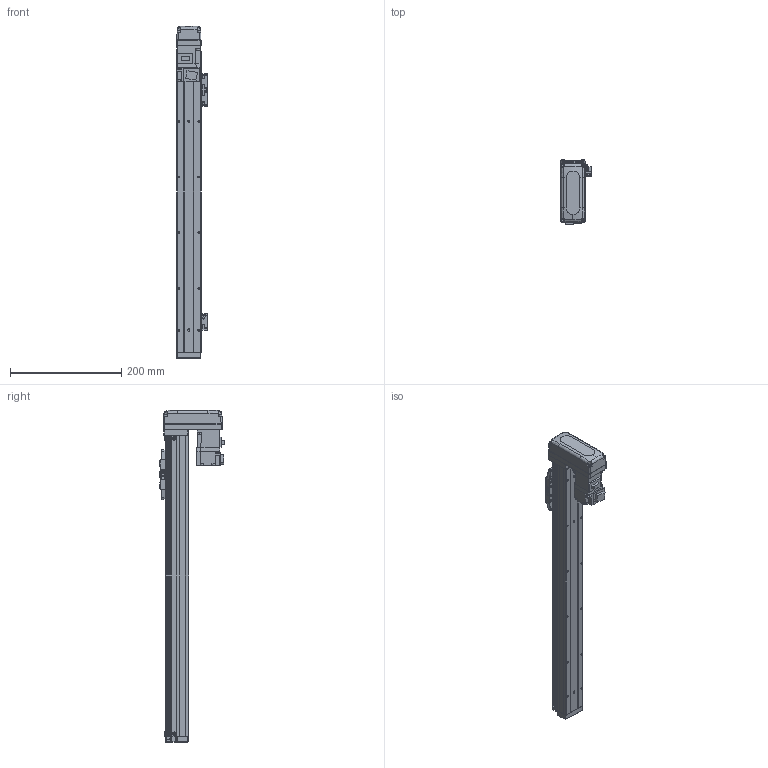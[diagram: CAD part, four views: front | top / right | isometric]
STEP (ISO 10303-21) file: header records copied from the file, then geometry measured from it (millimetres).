
FILE_DESCRIPTION (( 'STEP AP203' ), '1' );
FILE_NAME ('BTH40-400-BM-M05-C4.step', '2021-12-16T00:18:49', ( '微软用户' ), ( '微软中国' ), 'SwSTEP 2.0', 'SolidWorks 2020', '' );
FILE_SCHEMA (( 'CONFIG_CONTROL_DESIGN' ));
Length unit declared in the file: millimetre
Products named in the file (19): BTH50-028; BTH40-004; BTH50-023; BTH40-013; BTH40-001-50_BTH40-001-400; BTH50-024; HG-KR13; BTH40-003; GBT 70.1-M3℅6; GBT 70.3-M3℅6; BTH40-027-1; BTH40-006; GBT96.1-2002 3×0.8; BTH50-026; BTH-M3X5X6; BTH40-022; BTH40-400-BM-M05-C4; GBT70.1-2000 M3×16; GBT 70.1-M2.5×6
Assembly tree (47 placements, depth 2):
  BTH40-400-BM-M05-C4
    BTH40-001-50_BTH40-001-400
    BTH40-003
    BTH40-006
    BTH-M3X5X6  x8
    GBT70.1-2000 M3×16  x4
    BTH50-028  x2
    BTH50-023  x3
    BTH50-024  x3
    GBT 70.1-M3℅6  x6
    GBT96.1-2002 3×0.8  x6
    BTH40-022
    GBT 70.1-M2.5×6  x2
    BTH40-004
    BTH40-013
    HG-KR13
    GBT 70.3-M3℅6  x4
    BTH40-027-1
    BTH50-026
Bounding box: 55.2 x 115.8 x 596 mm (x, y, z)
Volume: 1130749.3 mm3; surface area: 206566.3 mm2
Topology: 49 solids, 49 shells, 1979 faces, 4647 edges, 2858 vertices
Faces by surface type: plane 1052, cylinder 491, cone 270, torus 128, bspline 34, sphere 4
Entity records: 39543 total; most frequent: CARTESIAN_POINT 7570, DIRECTION 6196, ORIENTED_EDGE 5940, EDGE_CURVE 2970, AXIS2_PLACEMENT_3D 2119, VECTOR 1958, LINE 1958, VERTEX_POINT 1845
